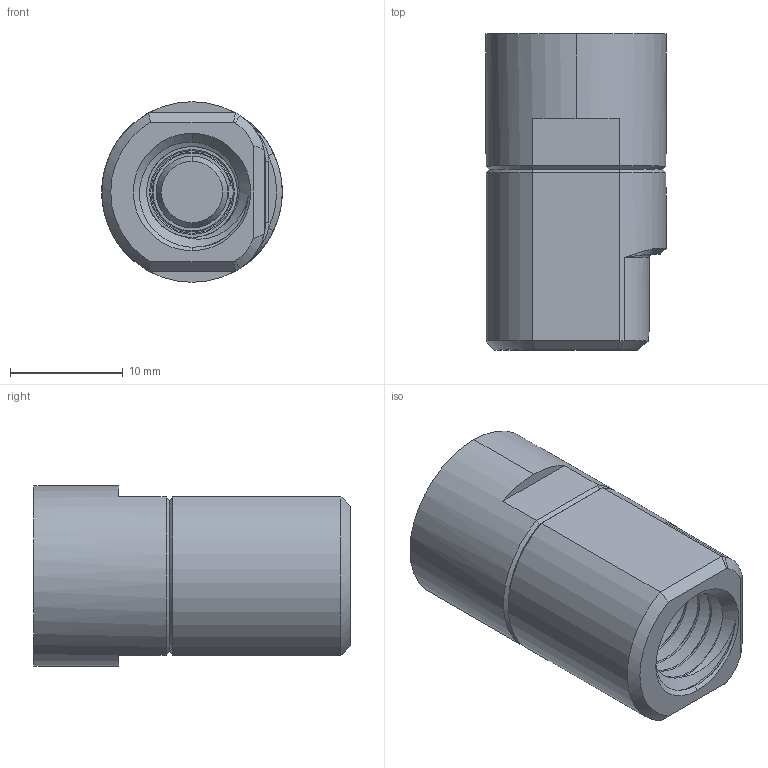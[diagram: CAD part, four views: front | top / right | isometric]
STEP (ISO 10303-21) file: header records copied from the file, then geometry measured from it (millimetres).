
FILE_DESCRIPTION (( 'STEP AP203' ), '1' );
FILE_NAME ('RTM16.step', '2025-09-02T21:08:11', ( '' ), ( '' ), 'SwSTEP 2.0', 'SolidWorks 2023', '' );
FILE_SCHEMA (( 'CONFIG_CONTROL_DESIGN' ));
Length unit declared in the file: millimetre
Products named in the file (3): RTM16-TR; RTM16; RTM16-BH
Assembly tree (2 placements, depth 2):
  RTM16
    RTM16-BH
    RTM16-TR
Bounding box: 15.99 x 28 x 15.99 mm (x, y, z)
Volume: 4523.8 mm3; surface area: 3202.5 mm2
Topology: 7 solids, 7 shells, 197 faces, 427 edges, 264 vertices
Faces by surface type: cylinder 50, plane 49, cone 41, torus 28, sphere 24, bspline 5
Entity records: 7928 total; most frequent: CARTESIAN_POINT 3286, DIRECTION 993, ORIENTED_EDGE 850, AXIS2_PLACEMENT_3D 430, EDGE_CURVE 425, VERTEX_POINT 264, CIRCLE 233, EDGE_LOOP 221
